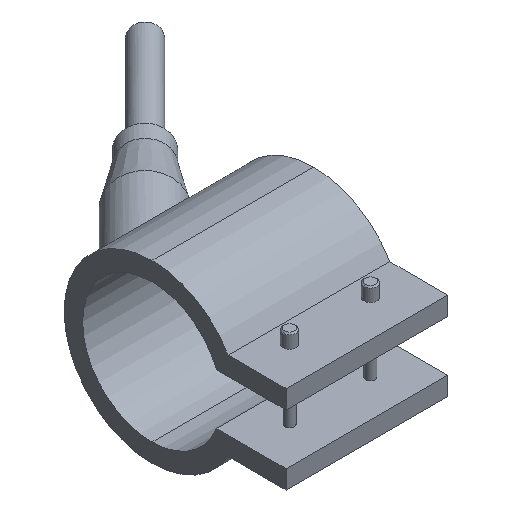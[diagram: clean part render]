
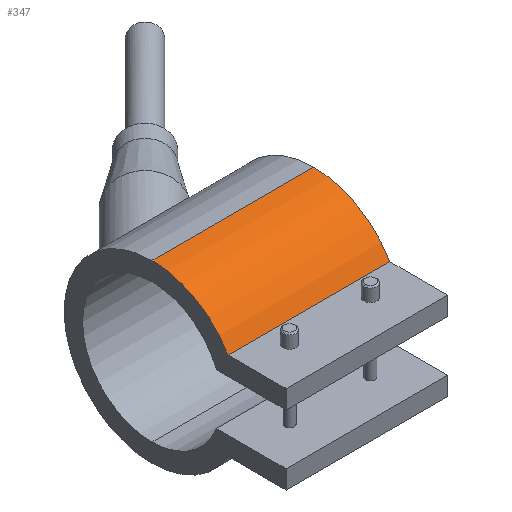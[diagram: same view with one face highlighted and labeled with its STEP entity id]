
A CAD part, isometric view. The second image highlights one B-rep face of the part: STEP entity #347.
In plain terms, the highlighted cylindrical face has radius 19 mm (diameter 38 mm), a partial arc.
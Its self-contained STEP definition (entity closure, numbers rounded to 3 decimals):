
#228=CARTESIAN_POINT('Line Origine',(17.5,0.,19.)) ;
#232=CARTESIAN_POINT('Vertex',(17.5,0.,19.)) ;
#234=CARTESIAN_POINT('Vertex',(-17.5,0.,19.)) ;
#317=CARTESIAN_POINT('Axis2P3D Location',(17.5,0.,0.)) ;
#322=CARTESIAN_POINT('Axis2P3D Location',(-17.5,0.,0.)) ;
#326=CARTESIAN_POINT('Vertex',(-17.5,-16.454,9.5)) ;
#329=CARTESIAN_POINT('Line Origine',(17.5,-16.454,9.5)) ;
#333=CARTESIAN_POINT('Vertex',(17.5,-16.454,9.5)) ;
#336=CARTESIAN_POINT('Axis2P3D Location',(17.5,0.,0.)) ;
#229=DIRECTION('Vector Direction',(1.,0.,0.)) ;
#318=DIRECTION('Axis2P3D Direction',(1.,0.,-0.)) ;
#319=DIRECTION('Axis2P3D XDirection',(0.,0.,1.)) ;
#323=DIRECTION('Axis2P3D Direction',(1.,0.,-0.)) ;
#330=DIRECTION('Vector Direction',(1.,0.,0.)) ;
#337=DIRECTION('Axis2P3D Direction',(1.,0.,-0.)) ;
#320=AXIS2_PLACEMENT_3D('Cylinder Axis2P3D',#317,#318,#319) ;
#324=AXIS2_PLACEMENT_3D('Circle Axis2P3D',#322,#323,$) ;
#338=AXIS2_PLACEMENT_3D('Circle Axis2P3D',#336,#337,$) ;
#342=ORIENTED_EDGE('',*,*,#236,.T.) ;
#343=ORIENTED_EDGE('',*,*,#328,.T.) ;
#344=ORIENTED_EDGE('',*,*,#335,.F.) ;
#345=ORIENTED_EDGE('',*,*,#340,.F.) ;
#230=VECTOR('Line Direction',#229,1.) ;
#331=VECTOR('Line Direction',#330,1.) ;
#347=ADVANCED_FACE('29030035',(#346),#321,.T.) ;
#325=CIRCLE('generated circle',#324,19.) ;
#339=CIRCLE('generated circle',#338,19.) ;
#321=CYLINDRICAL_SURFACE('generated cylinder',#320,19.) ;
#236=EDGE_CURVE('',#233,#235,#231,.F.) ;
#328=EDGE_CURVE('',#235,#327,#325,.T.) ;
#335=EDGE_CURVE('',#334,#327,#332,.F.) ;
#340=EDGE_CURVE('',#233,#334,#339,.T.) ;
#341=EDGE_LOOP('',(#342,#343,#344,#345)) ;
#346=FACE_OUTER_BOUND('',#341,.T.) ;
#231=LINE('Line',#228,#230) ;
#332=LINE('Line',#329,#331) ;
#233=VERTEX_POINT('',#232) ;
#235=VERTEX_POINT('',#234) ;
#327=VERTEX_POINT('',#326) ;
#334=VERTEX_POINT('',#333) ;
